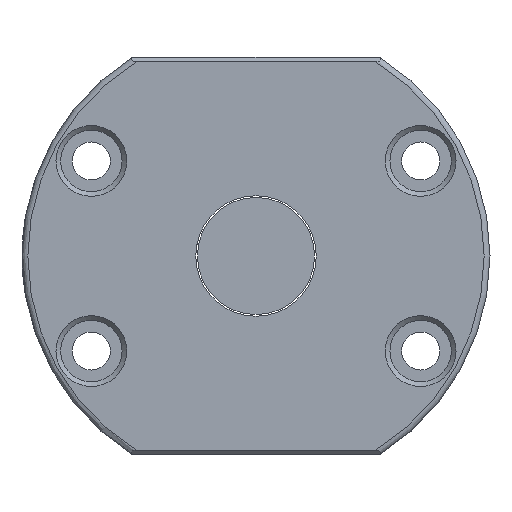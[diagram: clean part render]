
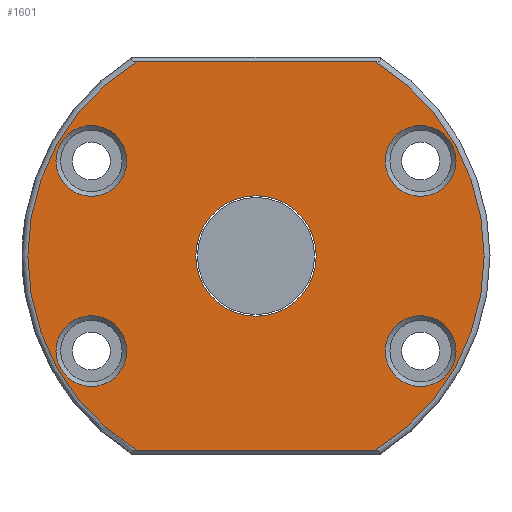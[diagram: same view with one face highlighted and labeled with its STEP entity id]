
A CAD part, left-side view. The second image highlights one B-rep face of the part: STEP entity #1601.
In plain terms, the highlighted planar face has unit normal (-1, 0, 0).
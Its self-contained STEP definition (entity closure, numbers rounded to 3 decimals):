
#21 = CARTESIAN_POINT ( 'NONE',  ( -55., -34.196, 16.25 ) ) ;
#31 = ORIENTED_EDGE ( 'NONE', *, *, #2547, .T. ) ;
#54 = VERTEX_POINT ( 'NONE', #2481 ) ;
#198 = CARTESIAN_POINT ( 'NONE',  ( -55., -20.464, -33.2 ) ) ;
#227 = DIRECTION ( 'NONE',  ( 0., 1., 0. ) ) ;
#234 = ORIENTED_EDGE ( 'NONE', *, *, #914, .T. ) ;
#257 = CARTESIAN_POINT ( 'NONE',  ( -55., 10.3, 0. ) ) ;
#353 = DIRECTION ( 'NONE',  ( 1., 0., 0. ) ) ;
#399 = EDGE_CURVE ( 'NONE', #425, #2956, #979, .T. ) ;
#425 = VERTEX_POINT ( 'NONE', #2887 ) ;
#444 = DIRECTION ( 'NONE',  ( 0., -1., 0. ) ) ;
#510 = VERTEX_POINT ( 'NONE', #1054 ) ;
#581 = VERTEX_POINT ( 'NONE', #1165 ) ;
#612 = ORIENTED_EDGE ( 'NONE', *, *, #2087, .T. ) ;
#620 = CARTESIAN_POINT ( 'NONE',  ( -55., 20.464, -33.2 ) ) ;
#772 = PLANE ( 'NONE',  #930 ) ;
#776 = AXIS2_PLACEMENT_3D ( 'NONE', #2567, #353, #2823 ) ;
#811 = VERTEX_POINT ( 'NONE', #257 ) ;
#878 = EDGE_CURVE ( 'NONE', #3007, #581, #1963, .T. ) ;
#899 = DIRECTION ( 'NONE',  ( 1., 0., 0. ) ) ;
#906 = EDGE_LOOP ( 'NONE', ( #2304 ) ) ;
#914 = EDGE_CURVE ( 'NONE', #811, #811, #2113, .T. ) ;
#930 = AXIS2_PLACEMENT_3D ( 'NONE', #1758, #2874, #1163 ) ;
#975 = EDGE_LOOP ( 'NONE', ( #234 ) ) ;
#976 = EDGE_CURVE ( 'NONE', #1000, #1000, #2271, .T. ) ;
#979 = CIRCLE ( 'NONE', #1857, 39. ) ;
#981 = FACE_BOUND ( 'NONE', #1837, .T. ) ;
#986 = CIRCLE ( 'NONE', #1818, 6.05 ) ;
#1000 = VERTEX_POINT ( 'NONE', #1760 ) ;
#1054 = CARTESIAN_POINT ( 'NONE',  ( -55., 22.096, 16.25 ) ) ;
#1129 = CARTESIAN_POINT ( 'NONE',  ( -55., 0., 0. ) ) ;
#1163 = DIRECTION ( 'NONE',  ( 0., -1., 0. ) ) ;
#1165 = CARTESIAN_POINT ( 'NONE',  ( -55., -20.464, 33.2 ) ) ;
#1199 = DIRECTION ( 'NONE',  ( 0., -1., 0. ) ) ;
#1239 = AXIS2_PLACEMENT_3D ( 'NONE', #2380, #2139, #444 ) ;
#1258 = VERTEX_POINT ( 'NONE', #21 ) ;
#1377 = DIRECTION ( 'NONE',  ( -1., 0., 0. ) ) ;
#1454 = CIRCLE ( 'NONE', #2217, 6.05 ) ;
#1595 = CARTESIAN_POINT ( 'NONE',  ( -55., -28.146, 16.25 ) ) ;
#1601 = ADVANCED_FACE ( 'NONE', ( #981, #1727, #2144, #2632, #1969, #2945 ), #772, .T. ) ;
#1631 = ORIENTED_EDGE ( 'NONE', *, *, #2926, .T. ) ;
#1727 = FACE_BOUND ( 'NONE', #906, .T. ) ;
#1758 = CARTESIAN_POINT ( 'NONE',  ( -55., 40., 0. ) ) ;
#1760 = CARTESIAN_POINT ( 'NONE',  ( -55., -34.196, -16.25 ) ) ;
#1762 = CIRCLE ( 'NONE', #1866, 6.05 ) ;
#1818 = AXIS2_PLACEMENT_3D ( 'NONE', #1595, #2843, #1831 ) ;
#1831 = DIRECTION ( 'NONE',  ( 0., -1., 0. ) ) ;
#1837 = EDGE_LOOP ( 'NONE', ( #612 ) ) ;
#1857 = AXIS2_PLACEMENT_3D ( 'NONE', #1129, #1377, #2101 ) ;
#1863 = DIRECTION ( 'NONE',  ( 1., 0., 0. ) ) ;
#1866 = AXIS2_PLACEMENT_3D ( 'NONE', #2419, #899, #2913 ) ;
#1877 = CARTESIAN_POINT ( 'NONE',  ( -55., 28.146, -16.25 ) ) ;
#1897 = ORIENTED_EDGE ( 'NONE', *, *, #878, .T. ) ;
#1963 = CIRCLE ( 'NONE', #2475, 39. ) ;
#1969 = FACE_BOUND ( 'NONE', #975, .T. ) ;
#2013 = EDGE_LOOP ( 'NONE', ( #2301, #1897, #31, #2937 ) ) ;
#2052 = DIRECTION ( 'NONE',  ( -1., 0., 0. ) ) ;
#2087 = EDGE_CURVE ( 'NONE', #54, #54, #1454, .T. ) ;
#2101 = DIRECTION ( 'NONE',  ( 0., -1., 0. ) ) ;
#2105 = ORIENTED_EDGE ( 'NONE', *, *, #2578, .T. ) ;
#2113 = CIRCLE ( 'NONE', #776, 10.3 ) ;
#2127 = LINE ( 'NONE', #2691, #3047 ) ;
#2139 = DIRECTION ( 'NONE',  ( 1., 0., 0. ) ) ;
#2144 = FACE_BOUND ( 'NONE', #3097, .T. ) ;
#2197 = EDGE_CURVE ( 'NONE', #2956, #3007, #2916, .T. ) ;
#2217 = AXIS2_PLACEMENT_3D ( 'NONE', #1877, #1863, #2846 ) ;
#2270 = EDGE_LOOP ( 'NONE', ( #2105 ) ) ;
#2271 = CIRCLE ( 'NONE', #1239, 6.05 ) ;
#2301 = ORIENTED_EDGE ( 'NONE', *, *, #2197, .T. ) ;
#2304 = ORIENTED_EDGE ( 'NONE', *, *, #976, .T. ) ;
#2380 = CARTESIAN_POINT ( 'NONE',  ( -55., -28.146, -16.25 ) ) ;
#2419 = CARTESIAN_POINT ( 'NONE',  ( -55., 28.146, 16.25 ) ) ;
#2450 = CARTESIAN_POINT ( 'NONE',  ( -55., 40., -33.2 ) ) ;
#2475 = AXIS2_PLACEMENT_3D ( 'NONE', #2837, #2052, #3059 ) ;
#2477 = VECTOR ( 'NONE', #1199, 1000. ) ;
#2481 = CARTESIAN_POINT ( 'NONE',  ( -55., 22.096, -16.25 ) ) ;
#2547 = EDGE_CURVE ( 'NONE', #581, #425, #2127, .T. ) ;
#2567 = CARTESIAN_POINT ( 'NONE',  ( -55., 0., 0. ) ) ;
#2578 = EDGE_CURVE ( 'NONE', #510, #510, #1762, .T. ) ;
#2632 = FACE_BOUND ( 'NONE', #2270, .T. ) ;
#2691 = CARTESIAN_POINT ( 'NONE',  ( -55., 40., 33.2 ) ) ;
#2823 = DIRECTION ( 'NONE',  ( 0., 1., 0. ) ) ;
#2837 = CARTESIAN_POINT ( 'NONE',  ( -55., 0., 0. ) ) ;
#2843 = DIRECTION ( 'NONE',  ( 1., 0., 0. ) ) ;
#2846 = DIRECTION ( 'NONE',  ( 0., -1., 0. ) ) ;
#2874 = DIRECTION ( 'NONE',  ( -1., 0., 0. ) ) ;
#2887 = CARTESIAN_POINT ( 'NONE',  ( -55., 20.464, 33.2 ) ) ;
#2913 = DIRECTION ( 'NONE',  ( 0., -1., 0. ) ) ;
#2916 = LINE ( 'NONE', #2450, #2477 ) ;
#2926 = EDGE_CURVE ( 'NONE', #1258, #1258, #986, .T. ) ;
#2937 = ORIENTED_EDGE ( 'NONE', *, *, #399, .T. ) ;
#2945 = FACE_OUTER_BOUND ( 'NONE', #2013, .T. ) ;
#2956 = VERTEX_POINT ( 'NONE', #620 ) ;
#3007 = VERTEX_POINT ( 'NONE', #198 ) ;
#3047 = VECTOR ( 'NONE', #227, 1000. ) ;
#3059 = DIRECTION ( 'NONE',  ( 0., -1., 0. ) ) ;
#3097 = EDGE_LOOP ( 'NONE', ( #1631 ) ) ;
